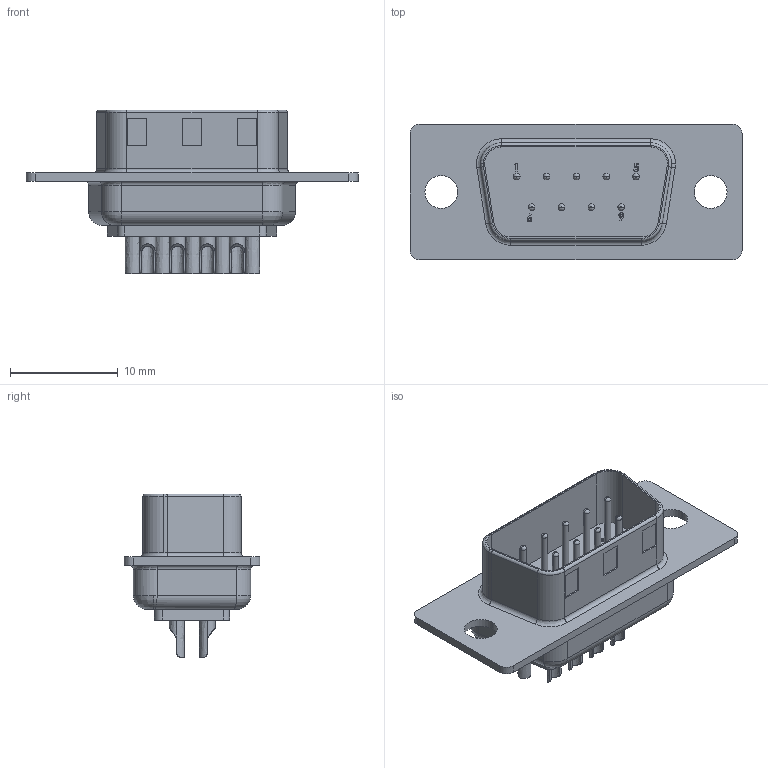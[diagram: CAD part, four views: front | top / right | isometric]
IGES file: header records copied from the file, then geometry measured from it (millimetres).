
Global section: file name: Filename.iges; native system: Open CASCADE 7.3; preprocessor: Open CASCADE IGES processor 7.3; date: 20201223.080450; units: millimetre
Bounding box: 30.81 x 12.6 x 15.21 mm (x, y, z)
Surface area: 1941.3 mm2 (no closed solid volume)
Topology: 0 solids, 0 shells, 390 faces, 1882 edges, 1882 vertices
Faces by surface type: revolution 177, plane 165, bspline 48
